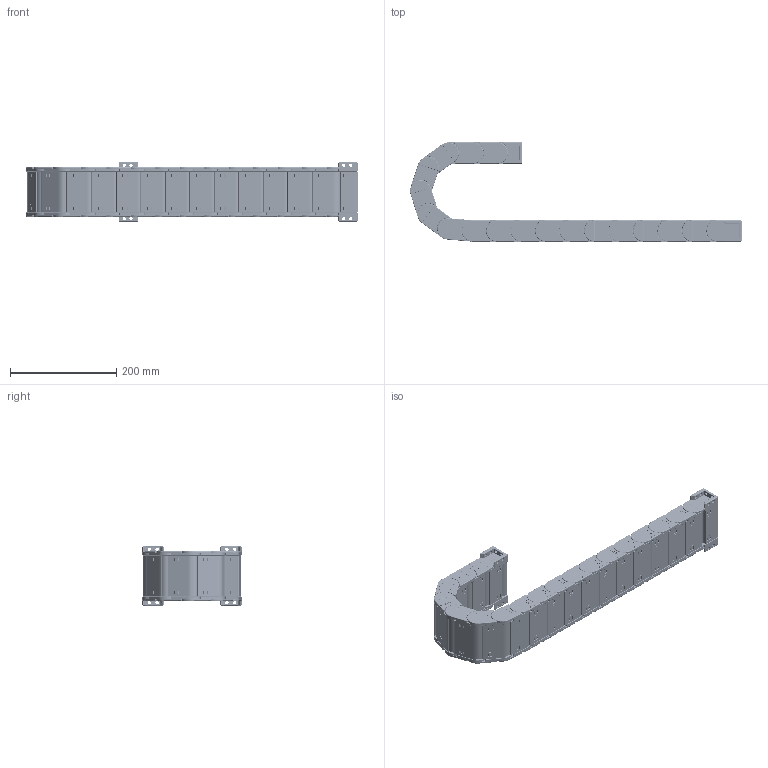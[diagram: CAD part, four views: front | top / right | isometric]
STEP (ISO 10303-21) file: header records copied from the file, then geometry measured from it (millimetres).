
FILE_DESCRIPTION (( 'STEP AP203' ), '1' );
FILE_NAME ('J25F.1.77S猾敕宒--俋耜羲.STEP', '2017-12-16T03:19:53', ( '' ), ( '' ), 'SwSTEP 2.0', 'SolidWorks 2016', '' );
FILE_SCHEMA (( 'CONFIG_CONTROL_DESIGN' ));
Length unit declared in the file: millimetre
Products named in the file (10): 25-崝Ч翋极1; 25-崝Ч翋极2; N25-囀猾敕え; N25X75-俋諉芛 - 萵掛; N25-俋猾敕え.2; J25F.1.77S猾敕宒--俋耜羲; N25X57-增强3D-1 - 副本; 25-崝Ч源諉芛囀; N25X75-囀諉芛 - 萵掛; 25-崝Ч源諉芛俋
Assembly tree (31 placements, depth 3):
  J25F.1.77S猾敕宒--俋耜羲
    N25X57-增强3D-1 - 副本  x17
      25-崝Ч翋极1
      25-崝Ч翋极2
      N25-囀猾敕え
      N25-俋猾敕え.2
    N25X75-囀諉芛 - 萵掛
      25-崝Ч源諉芛囀  x2
      N25-囀猾敕え  x2
    N25X75-俋諉芛 - 萵掛
      25-崝Ч源諉芛俋  x2
      N25-囀猾敕え  x2
Bounding box: 623.94 x 186.39 x 111 mm (x, y, z)
Volume: 975898.8 mm3; surface area: 750341.8 mm2
Topology: 76 solids, 76 shells, 19781 faces, 53747 edges, 34150 vertices
Faces by surface type: plane 8811, cylinder 5690, bspline 3842, torus 1360, sphere 78
Entity records: 49575 total; most frequent: CARTESIAN_POINT 17331, ORIENTED_EDGE 6766, DIRECTION 5911, EDGE_CURVE 3383, VERTEX_POINT 2166, AXIS2_PLACEMENT_3D 1973, LINE 1965, VECTOR 1965
